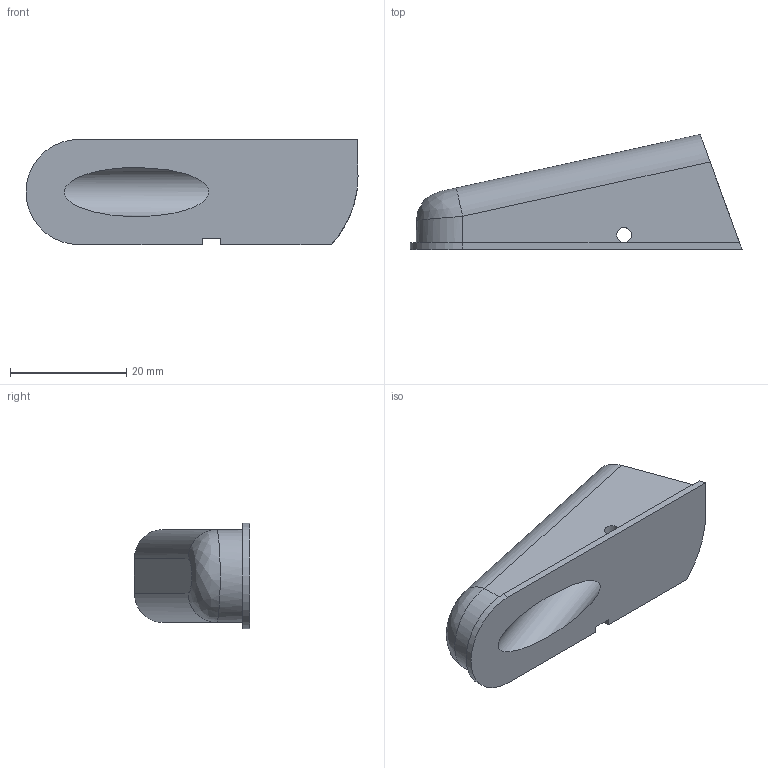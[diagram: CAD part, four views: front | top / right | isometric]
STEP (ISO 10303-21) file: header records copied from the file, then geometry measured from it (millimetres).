
FILE_DESCRIPTION(/* description */ (''),/* implementation_level */ '2;1');
FILE_NAME(/* name */ 'Modular Forward Assist Normal v4.step',/* time_stamp */ '2022-12-09T17:20:41-05:00',/* author */ (''),/* organization */ (''),/* preprocessor_version */ 'ST-DEVELOPER v19.2',/* originating_system */ 'Autodesk Translation Framework v11.17.0.187',/* authorisation */ '');
FILE_SCHEMA (('AUTOMOTIVE_DESIGN { 1 0 10303 214 3 1 1 }'));
Length unit declared in the file: millimetre
Products named in the file (1): Modular Forward Assist Normal
Bounding box: 57.1 x 19.8 x 18.1 mm (x, y, z)
Volume: 8424.7 mm3; surface area: 4615.1 mm2
Topology: 1 solids, 1 shells, 22 faces, 63 edges, 41 vertices
Faces by surface type: plane 13, cylinder 8, bspline 1
Full cylindrical faces by diameter (mm): 2.6 x1, 8.5 x1, 13.2 x1
Entity records: 875 total; most frequent: CARTESIAN_POINT 243, ORIENTED_EDGE 126, DIRECTION 124, EDGE_CURVE 63, AXIS2_PLACEMENT_3D 42, VERTEX_POINT 41, LINE 40, VECTOR 40
